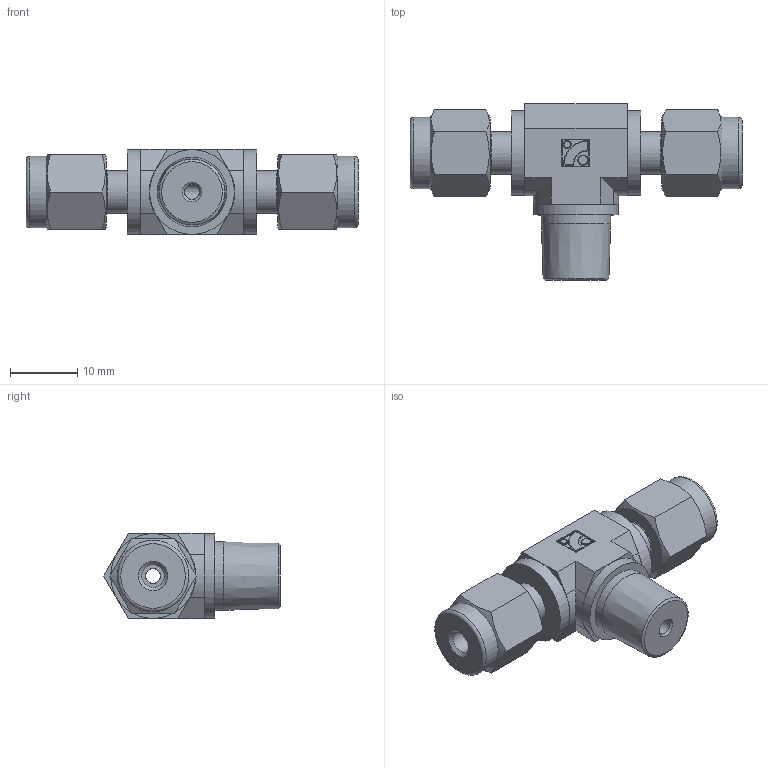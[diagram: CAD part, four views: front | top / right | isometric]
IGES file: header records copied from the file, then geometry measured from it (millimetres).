
Global section: file name: No Iges File Name specified; native system: Autodesk Inventor 2012; preprocessor: AutoDesk Inventor Iges Exporter R2012; author: 硅己绕,, ; organization: 11; date: 20150815.155057; units: millimetre
Bounding box: 49.32 x 26.23 x 12.7 mm (x, y, z)
Volume: 6061.6 mm3; surface area: 3368.7 mm2
Topology: 1 solids, 1 shells, 124 faces, 268 edges, 157 vertices
Faces by surface type: plane 47, revolution 30, cylinder 25, torus 10, cone 8, sphere 4
Full cylindrical faces by diameter (mm): 1.08 x1, 1.44 x1, 6.28 x2, 10.28 x1, 10.6 x2, 12.6 x3
